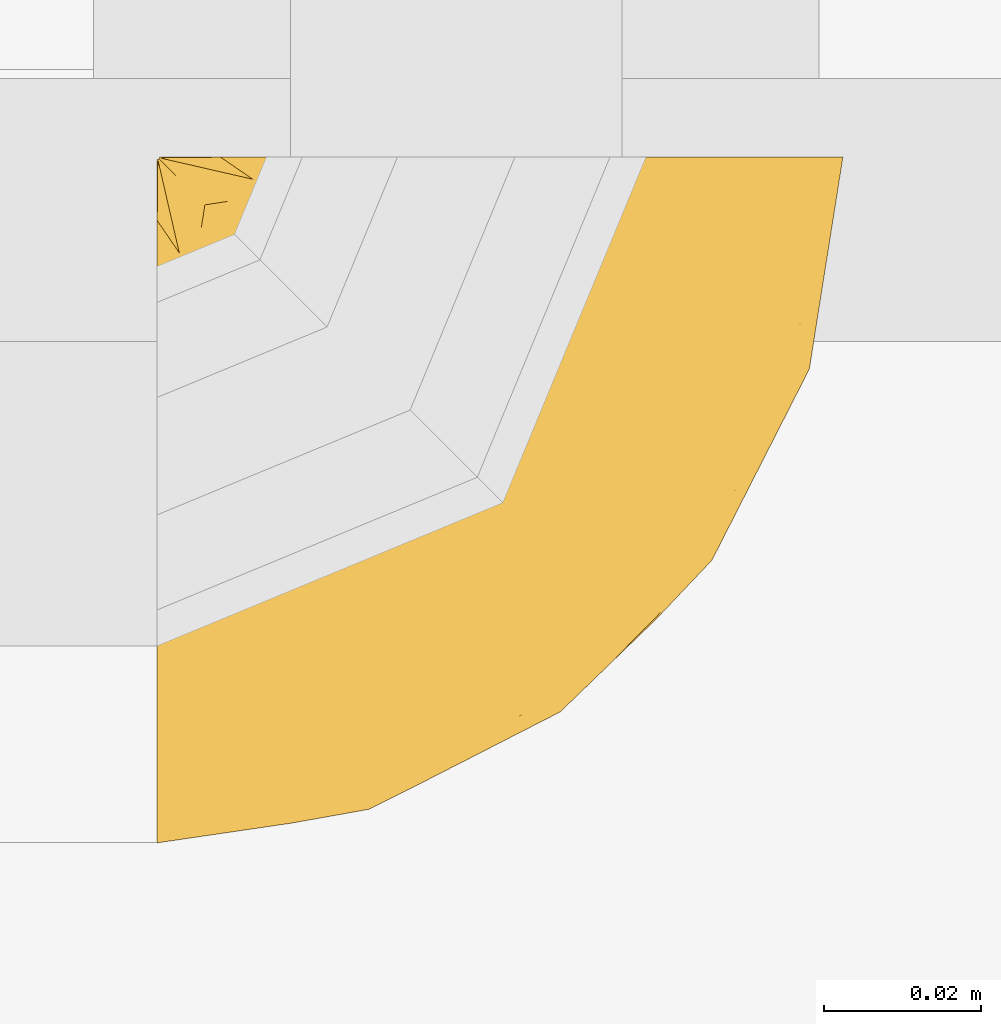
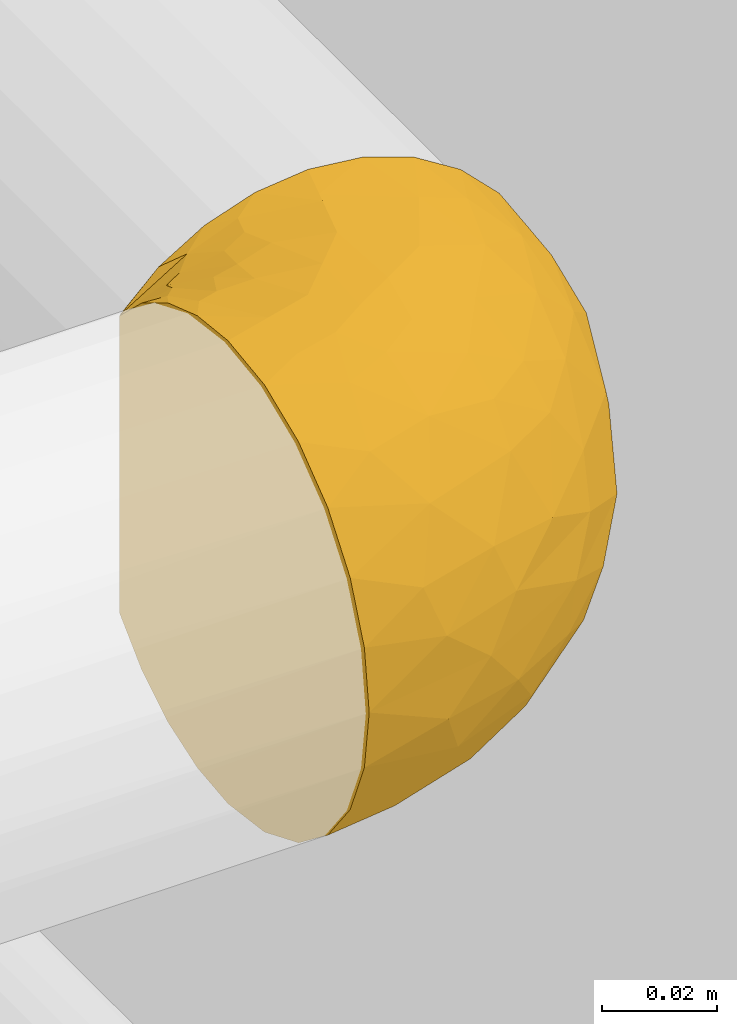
# One storey, part 43 of 94: 1 covering.
"""IFC2X3 building model written with IfcOpenShell, lengths in millimetres."""

from ifc_helpers import new_model, entity, si_unit, converted_unit, derived_unit, direction, frame, origin, place, context, subcontext, project, spatial, faceted_brep, material, element, save


model = new_model("IFC2X3")

# Units and contexts
model_context = context("Model", 3, precision=0.01, world=origin(), true_north=direction((6.123031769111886e-17, 1.0)))
body_context = subcontext(model_context, "Body", "Model", "MODEL_VIEW")
ifc_project = project(units=[si_unit("LENGTHUNIT", "METRE", prefix="MILLI"), si_unit("AREAUNIT", "SQUARE_METRE"), si_unit("VOLUMEUNIT", "CUBIC_METRE"), converted_unit("PLANEANGLEUNIT", "DEGREE", entity("IfcRatioMeasure", 0.017453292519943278), si_unit("PLANEANGLEUNIT", "RADIAN"), dimensions=[0, 0, 0, 0, 0, 0, 0]), si_unit("MASSUNIT", "GRAM", prefix="KILO"), derived_unit("MASSDENSITYUNIT", [(si_unit("MASSUNIT", "GRAM", prefix="KILO"), 1), (si_unit("LENGTHUNIT", "METRE"), -3)]), derived_unit("IONCONCENTRATIONUNIT", [(si_unit("MASSUNIT", "GRAM", prefix="KILO"), 1), (si_unit("LENGTHUNIT", "METRE"), -3)]), derived_unit("MOMENTOFINERTIAUNIT", [(si_unit("LENGTHUNIT", "METRE"), 4)]), si_unit("TIMEUNIT", "SECOND"), si_unit("FREQUENCYUNIT", "HERTZ"), si_unit("THERMODYNAMICTEMPERATUREUNIT", "DEGREE_CELSIUS"), derived_unit("THERMALTRANSMITTANCEUNIT", [(si_unit("MASSUNIT", "GRAM", prefix="KILO"), 1), (si_unit("THERMODYNAMICTEMPERATUREUNIT", "KELVIN"), -1), (si_unit("TIMEUNIT", "SECOND"), -3)]), derived_unit("THERMALCONDUCTANCEUNIT", [(si_unit("MASSUNIT", "GRAM", prefix="KILO"), 1), (si_unit("THERMODYNAMICTEMPERATUREUNIT", "KELVIN"), -1), (si_unit("TIMEUNIT", "SECOND"), -3), (si_unit("LENGTHUNIT", "METRE"), 1)]), derived_unit("VOLUMETRICFLOWRATEUNIT", [(si_unit("LENGTHUNIT", "METRE"), 3), (si_unit("TIMEUNIT", "SECOND"), -1)]), derived_unit("MASSFLOWRATEUNIT", [(si_unit("MASSUNIT", "GRAM", prefix="KILO"), 1), (si_unit("TIMEUNIT", "SECOND"), -1)]), derived_unit("ROTATIONALFREQUENCYUNIT", [(si_unit("TIMEUNIT", "SECOND"), -1)]), si_unit("ELECTRICCURRENTUNIT", "AMPERE"), si_unit("ELECTRICVOLTAGEUNIT", "VOLT"), si_unit("POWERUNIT", "WATT"), si_unit("FORCEUNIT", "NEWTON", prefix="KILO"), si_unit("ILLUMINANCEUNIT", "LUX"), si_unit("LUMINOUSFLUXUNIT", "LUMEN"), si_unit("LUMINOUSINTENSITYUNIT", "CANDELA"), derived_unit("USERDEFINED", [(si_unit("MASSUNIT", "GRAM", prefix="KILO"), -1), (si_unit("LENGTHUNIT", "METRE"), -2), (si_unit("TIMEUNIT", "SECOND"), 3), (si_unit("LUMINOUSFLUXUNIT", "LUMEN"), 1)]), derived_unit("USERDEFINED", [(si_unit("MASSUNIT", "GRAM", prefix="KILO"), 1), (si_unit("TIMEUNIT", "SECOND"), -3), (si_unit("LENGTHUNIT", "METRE"), 3), (si_unit("ELECTRICCURRENTUNIT", "AMPERE"), -2)]), derived_unit("SOUNDPOWERUNIT", [(si_unit("MASSUNIT", "GRAM", prefix="KILO"), 1), (si_unit("TIMEUNIT", "SECOND"), -3), (si_unit("LENGTHUNIT", "METRE"), 2)]), derived_unit("SOUNDPRESSUREUNIT", [(si_unit("MASSUNIT", "GRAM", prefix="KILO"), 1), (si_unit("LENGTHUNIT", "METRE"), -1), (si_unit("TIMEUNIT", "SECOND"), -2)]), derived_unit("LINEARVELOCITYUNIT", [(si_unit("LENGTHUNIT", "METRE"), 1), (si_unit("TIMEUNIT", "SECOND"), -1)]), si_unit("PRESSUREUNIT", "PASCAL"), derived_unit("USERDEFINED", [(si_unit("MASSUNIT", "GRAM", prefix="KILO"), 1), (si_unit("LENGTHUNIT", "METRE"), -2), (si_unit("TIMEUNIT", "SECOND"), -2)]), derived_unit("LINEARFORCEUNIT", [(si_unit("MASSUNIT", "GRAM", prefix="KILO"), 1), (si_unit("TIMEUNIT", "SECOND"), -2)]), derived_unit("PLANARFORCEUNIT", [(si_unit("MASSUNIT", "GRAM", prefix="KILO"), 1), (si_unit("LENGTHUNIT", "METRE"), -1), (si_unit("TIMEUNIT", "SECOND"), -2)]), derived_unit("SPECIFICHEATCAPACITYUNIT", [(si_unit("THERMODYNAMICTEMPERATUREUNIT", "KELVIN"), -1), (si_unit("LENGTHUNIT", "METRE"), 2), (si_unit("TIMEUNIT", "SECOND"), -2)]), derived_unit("HEATINGVALUEUNIT", [(si_unit("LENGTHUNIT", "METRE"), 2), (si_unit("TIMEUNIT", "SECOND"), -2)]), derived_unit("VAPORPERMEABILITYUNIT", [(si_unit("LENGTHUNIT", "METRE"), -1), (si_unit("TIMEUNIT", "SECOND"), 1)]), derived_unit("DYNAMICVISCOSITYUNIT", [(si_unit("MASSUNIT", "GRAM", prefix="KILO"), 1), (si_unit("TIMEUNIT", "SECOND"), -1), (si_unit("LENGTHUNIT", "METRE"), -1)]), derived_unit("THERMALEXPANSIONCOEFFICIENTUNIT", [(si_unit("THERMODYNAMICTEMPERATUREUNIT", "KELVIN"), -1)]), derived_unit("MODULUSOFELASTICITYUNIT", [(si_unit("MASSUNIT", "GRAM", prefix="KILO"), 1), (si_unit("LENGTHUNIT", "METRE"), -1), (si_unit("TIMEUNIT", "SECOND"), -2)]), derived_unit("ISOTHERMALMOISTURECAPACITYUNIT", [(si_unit("LENGTHUNIT", "METRE"), 3), (si_unit("MASSUNIT", "GRAM", prefix="KILO"), -1)]), derived_unit("MOISTUREDIFFUSIVITYUNIT", [(si_unit("TIMEUNIT", "SECOND"), -1), (si_unit("LENGTHUNIT", "METRE"), 2)])], contexts=[model_context])

# Site, building, storey
site_placement = place(None, origin())
site = spatial("IfcSite", under=ifc_project, at=site_placement, Name="Default", CompositionType="ELEMENT")
building_placement = place(site_placement, origin())
building = spatial("IfcBuilding", under=site, at=building_placement, CompositionType="ELEMENT")
storey_placement = place(building_placement, origin())
storey = spatial("IfcBuildingStorey", under=building, at=storey_placement, Name="Niveau 0", CompositionType="ELEMENT", Elevation=0.0)

# Covering
ifc_material = material(Name="Isolation - Laine minérale")
covering_placement = place(storey_placement, frame((-6007.007059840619, 9280.90873167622, 528.1475789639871)))
element("IfcCovering", 1, at=covering_placement, inside=storey, material=ifc_material, Name="Isolation des canalisations:Laine minérale", ObjectType="Isolation des canalisations:Laine minérale", PredefinedType="INSULATION", context=body_context, shape_type="Brep", body=[
    faceted_brep([(60.92885820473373, 88.74460681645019, 95.03059287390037), (70.24831573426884, 88.74470819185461, 89.17365976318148), (78.02978349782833, 88.74483931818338, 81.39075227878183), (83.88401864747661, 88.74499361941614, 72.07223380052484), (87.518126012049, 88.74516336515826, 61.684975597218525), (88.75006713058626, 88.74533996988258, 50.754437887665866), (87.51760059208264, 88.7455148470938, 39.81194824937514), (83.88104727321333, 88.74567899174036, 29.42082213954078), (78.024114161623, 88.74582418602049, 20.10136461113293), (70.24120667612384, 88.74594316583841, 12.31989684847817), (60.922688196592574, 88.74602998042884, 6.4656616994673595), (50.535429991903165, 88.74608028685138, 2.831554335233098), (39.60489228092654, 88.74609156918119, 1.5996132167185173), (28.945691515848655, 88.74606448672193, 2.7682960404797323), (18.797137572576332, 88.74600112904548, 6.219167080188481), (9.640197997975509, 88.74590453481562, 11.786441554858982), (1.9167842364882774, 88.74577946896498, 19.19501469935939), (1.9165442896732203, 88.74574019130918, 21.639283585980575), (1.916369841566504, 88.7457116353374, 23.41633604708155), (1.9161953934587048, 88.74568307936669, 25.19338850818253), (1.9160481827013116, 88.74565898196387, 26.692981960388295), (1.9159009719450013, 88.74563488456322, 28.192575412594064), (1.915606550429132, 88.74558668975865, 31.1917623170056), (1.9153121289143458, 88.74553849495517, 34.190949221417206), (1.9150177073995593, 88.74549030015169, 37.19013612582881), (1.9147232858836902, 88.74544210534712, 40.189323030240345), (1.914576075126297, 88.7454180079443, 41.68891648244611), (1.9144288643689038, 88.74539391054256, 43.188509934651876), (1.9141889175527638, 88.74535463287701, 45.632778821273), (1.913948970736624, 88.74531535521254, 48.07704770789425), (1.913709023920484, 88.7452760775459, 50.52131659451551), (1.9134690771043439, 88.74523679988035, 52.96558548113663), (1.9132291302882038, 88.74519752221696, 55.40985436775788), (1.9129891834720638, 88.7451582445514, 57.854123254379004), (1.912749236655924, 88.7451189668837, 60.29839214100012), (1.912509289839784, 88.74507968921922, 62.74266102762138), (1.912269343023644, 88.74504041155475, 65.18692991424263), (1.912029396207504, 88.74500113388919, 67.63119880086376), (1.9117894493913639, 88.74496185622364, 70.07546768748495), (1.911549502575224, 88.74492257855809, 72.51973657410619), (1.911309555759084, 88.74488330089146, 74.96400546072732), (1.911069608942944, 88.74484402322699, 77.4082743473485), (1.910829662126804, 88.74480474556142, 79.85254323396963), (1.9105897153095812, 88.74476546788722, 82.29681212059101), (9.649161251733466, 88.74465221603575, 89.71967484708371), (18.809829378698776, 88.74456990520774, 95.28598579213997), (28.956728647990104, 88.7445224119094, 98.73337939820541), (39.595242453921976, 88.74451195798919, 99.89961273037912), (50.537732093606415, 88.74454028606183, 98.66714619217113), (1.603165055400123, 88.43215979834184, 19.194978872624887), (1.6038992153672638, 80.6992068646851, 11.77753809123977), (1.604452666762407, 71.54257195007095, 6.212196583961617), (1.6047991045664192, 61.39746118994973, 2.763469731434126), (1.6049220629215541, 50.74606203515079, 1.5952722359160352), (1.6047675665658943, 38.02507905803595, 3.2698134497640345), (1.604294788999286, 26.170956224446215, 8.179728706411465), (1.6035359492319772, 15.991532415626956, 15.99041539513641), (1.6025427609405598, 8.180518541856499, 26.169588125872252), (1.6013829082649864, 3.270222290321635, 38.02355309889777), (1.600135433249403, 1.5952722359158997, 50.744482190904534), (1.5988853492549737, 3.269813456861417, 63.4654651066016), (1.5977178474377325, 8.179728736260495, 75.31958788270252), (1.596712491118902, 15.990415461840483, 85.49901164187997), (1.595937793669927, 26.169588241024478, 93.31002547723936), (1.5954465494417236, 38.02355327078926, 98.22032170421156), (1.5952722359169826, 50.74448242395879, 99.89527174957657), (1.5953786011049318, 61.39591911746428, 98.72741657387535), (1.5957092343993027, 71.54114070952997, 95.27901577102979), (1.5962484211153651, 80.69795448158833, 89.71396854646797), (1.5969705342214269, 88.43114579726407, 82.29677629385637), (1.597210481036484, 88.43118507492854, 79.85250740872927), (1.5973576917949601, 88.43120917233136, 78.35291395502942), (1.5975512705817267, 88.43124085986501, 76.38098278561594), (1.597744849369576, 88.43127254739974, 74.40905161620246), (1.5979384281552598, 88.43130423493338, 72.43712044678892), (1.5981320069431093, 88.43133592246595, 70.4651892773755), (1.598325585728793, 88.4313676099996, 68.49325810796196), (1.5985191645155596, 88.43139929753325, 66.52132693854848), (1.598712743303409, 88.43143098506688, 64.549395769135), (1.5989063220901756, 88.43146267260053, 62.57746459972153), (1.5990999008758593, 88.43149436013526, 60.60553343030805), (1.5992934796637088, 88.43152604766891, 58.63360226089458), (1.5994870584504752, 88.43155773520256, 56.6616710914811), (1.5996806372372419, 88.43158942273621, 54.68973992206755), (1.5998742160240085, 88.43162111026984, 52.71780875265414), (1.600067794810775, 88.4316527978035, 50.7458775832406), (1.6002613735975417, 88.43168448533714, 48.77394641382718), (1.6004549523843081, 88.4317161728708, 46.80201524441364), (1.6006485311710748, 88.43174786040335, 44.830084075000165), (1.6008421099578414, 88.431779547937, 42.858152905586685), (1.601035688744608, 88.43181123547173, 40.886221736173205), (1.6012292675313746, 88.43184292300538, 38.91429056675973), (1.601422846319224, 88.43187461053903, 36.94235939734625), (1.6016164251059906, 88.43190629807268, 34.97042822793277), (1.601910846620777, 88.43195449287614, 31.971241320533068), (1.602205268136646, 88.43200268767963, 28.972054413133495), (1.6024452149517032, 88.43204196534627, 26.52778552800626), (1.6026851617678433, 88.43208124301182, 24.083516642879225), (1.6029251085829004, 88.43212052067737, 21.63924775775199), (1.8141434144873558, 88.51630872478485, 53.75396743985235), (1.8231248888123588, 88.52490291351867, 51.8333940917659), (1.8230650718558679, 88.5256494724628, 61.47353043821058), (1.8163017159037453, 88.5191145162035, 63.56345344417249), (1.8046840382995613, 88.5074100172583, 48.00165365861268), (1.807673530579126, 88.5121022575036, 77.25062113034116), (1.8510937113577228, 88.56078521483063, 80.6997705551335), (1.828052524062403, 88.52918552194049, 42.43870070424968), (1.8245674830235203, 88.5239580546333, 22.861405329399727), (1.8224152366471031, 88.52197419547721, 24.70084492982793), (1.8267825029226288, 88.53038235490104, 71.37071884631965), (1.8163724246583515, 88.51995893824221, 73.40446696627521), (1.8412717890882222, 88.54418434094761, 44.410633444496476), (1.8169513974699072, 88.5177442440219, 37.92834702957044), (1.8132370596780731, 88.51442345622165, 39.81371294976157), (1.8309385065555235, 88.53167813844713, 35.956417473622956), (1.816294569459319, 88.51803299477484, 49.75993447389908), (1.819046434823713, 88.52305429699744, 79.10273403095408), (1.822339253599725, 88.52160519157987, 21.028203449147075), (1.8082069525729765, 88.51102758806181, 55.675727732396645), (1.8062156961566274, 88.51010081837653, 67.5073146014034), (1.8111483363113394, 88.5144173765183, 65.6151744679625), (1.8127105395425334, 88.51352202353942, 34.10520837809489), (1.810971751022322, 88.51365850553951, 57.55280258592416), (1.8079884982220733, 88.51225209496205, 75.39503935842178), (1.8187328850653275, 88.52300297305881, 82.29679953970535), (1.8473628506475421, 88.59212197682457, 82.29680346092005), (1.8759928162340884, 88.66124098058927, 82.29680738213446), (1.8249274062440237, 88.52401697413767, 19.19500211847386), (1.7558084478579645, 88.49538690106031, 19.194994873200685), (1.6866894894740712, 88.46675682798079, 19.194987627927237), (1.8371528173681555, 88.53818853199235, 32.21278757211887), (1.81308034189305, 88.51650379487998, 69.43621994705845), (1.823313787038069, 88.52462934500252, 46.24891671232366), (1.8197772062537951, 88.52218140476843, 59.49124176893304), (1.8416401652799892, 88.54311330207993, 29.41988276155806), (1.8201861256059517, 88.5200213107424, 27.44276542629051), (1.680494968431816, 88.46574282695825, 82.29678504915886), (1.7496139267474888, 88.49437290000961, 82.29679229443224), (1.882187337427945, 88.66225498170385, 19.195009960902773), (1.8535573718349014, 88.59313597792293, 19.195006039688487), (5.129123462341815, 66.84607546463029, 4.210888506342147), (4.413361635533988, 76.59346520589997, 8.744870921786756), (9.271845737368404, 67.93151833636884, 4.211312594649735), (7.216458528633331, 79.77868160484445, 9.956601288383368), (11.10492003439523, 53.291586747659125, 1.5962457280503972), (9.06129046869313, 52.74399615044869, 1.5960363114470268), (34.51387244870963, 69.746087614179, 1.5988081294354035), (23.954514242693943, 74.32118036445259, 2.9380706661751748), (22.40950951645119, 81.07963069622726, 4.215981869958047), (20.604918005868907, 55.83711146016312, 1.5972192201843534), (9.675620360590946, 80.67331754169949, 9.40657900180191), (10.560426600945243, 83.13829433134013, 9.964887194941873), (16.028956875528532, 66.39657719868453, 2.937309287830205), (23.495204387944, 85.22191852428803, 4.216155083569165), (13.746100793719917, 85.93833552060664, 8.752412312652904), (10.70065568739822, 72.79976918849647, 5.6918751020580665), (37.6069698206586, 81.2897201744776, 1.5992972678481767), (37.059382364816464, 79.24608959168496, 1.5992106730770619), (16.738208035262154, 73.612440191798, 4.4844727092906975), (27.559395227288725, 62.79159953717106, 1.5980136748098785), (16.46987806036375, 78.26971972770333, 5.767958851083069), (15.020963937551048, 42.717377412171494, 2.6129130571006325), (24.439351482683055, 46.33989382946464, 2.65970250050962), (36.501658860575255, 31.44150925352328, 11.134693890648), (31.21182048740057, 17.6733334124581, 20.827022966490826), (19.183096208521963, 23.139628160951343, 11.753236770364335), (23.3443854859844, 36.26144875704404, 5.338493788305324), (11.469328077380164, 32.800174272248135, 5.337272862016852), (52.82560695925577, 18.239480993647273, 50.749778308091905), (28.53096304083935, 5.860717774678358, 50.74719445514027), (36.47122098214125, 10.092725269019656, 40.342509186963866), (64.5644908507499, 76.48982590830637, 9.130837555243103), (54.10572172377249, 75.176045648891, 4.356591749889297), (60.78427989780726, 29.563222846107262, 32.652423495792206), (59.57734764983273, 34.95518693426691, 23.774346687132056), (75.05463495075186, 46.443469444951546, 35.6224594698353), (19.032435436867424, 4.214222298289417, 41.69709712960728), (43.10635442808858, 17.109218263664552, 30.513351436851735), (46.84434225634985, 25.59365986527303, 21.752467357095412), (15.058483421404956, 12.937304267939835, 20.825361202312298), (23.244518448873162, 8.193693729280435, 31.937823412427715), (53.24959087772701, 37.512027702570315, 15.989203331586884), (45.83424750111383, 41.46227606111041, 9.513896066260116), (56.644455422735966, 49.733998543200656, 11.411156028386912), (46.29828202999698, 61.57138162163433, 3.728093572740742), (60.305364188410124, 62.89281324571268, 9.13020050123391), (72.03642782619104, 70.54079247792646, 15.991579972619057), (84.48466352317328, 61.8145055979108, 50.753586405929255), (83.30554386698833, 67.6252470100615, 34.513642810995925), (64.73406344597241, 48.02362541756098, 18.54208835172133), (74.46101632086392, 56.65719371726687, 24.595441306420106), (79.74750974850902, 73.53405211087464, 24.59623122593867), (51.84275505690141, 19.26219049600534, 39.080284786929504), (65.00102912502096, 30.00823689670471, 42.35207529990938), (37.18659012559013, 56.9680249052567, 2.56684496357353), (72.10593817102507, 37.51984230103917, 50.75198082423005), (37.65519139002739, 46.87588236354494, 4.725926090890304), (32.16766141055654, 11.140091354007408, 69.55652518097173), (18.643625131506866, 4.0955275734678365, 59.58603113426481), (35.7701727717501, 9.502354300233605, 59.86811724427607), (47.845832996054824, 17.812172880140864, 66.14190745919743), (15.281202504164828, 6.466274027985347, 69.5547935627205), (65.816813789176, 54.54137524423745, 85.49968686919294), (64.55626042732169, 42.31967679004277, 78.99463449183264), (74.46456692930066, 56.6528136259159, 76.89467851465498), (53.252176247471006, 37.50157703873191, 85.49780292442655), (54.62931909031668, 30.584161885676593, 78.29154681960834), (54.1092873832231, 75.16982360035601, 97.14033832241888), (19.80259999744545, 44.78836685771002, 98.95472703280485), (20.595268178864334, 55.83553184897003, 99.8972187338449), (11.095270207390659, 53.29000713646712, 99.89624524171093), (83.30746351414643, 67.62566948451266, 66.98003077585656), (21.101599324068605, 14.262937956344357, 80.66722458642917), (60.31076265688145, 62.88526978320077, 92.36288546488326), (64.57101891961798, 76.48591575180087, 92.36352178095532), (13.46615987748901, 21.869268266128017, 89.73929023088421), (16.33619035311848, 33.88139274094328, 96.15512737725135), (41.93208610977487, 22.25156668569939, 79.62834007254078), (27.71603014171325, 26.047217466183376, 89.74075707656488), (59.123752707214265, 24.32919198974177, 59.51338146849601), (60.78326443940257, 29.56010436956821, 68.83999793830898), (10.513967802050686, 42.32066341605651, 99.01337470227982), (79.75151046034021, 73.53107529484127, 76.89546898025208), (75.05664165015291, 46.439505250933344, 65.863664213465), (72.04243574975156, 70.53635893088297, 85.50017671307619), (46.290874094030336, 61.55309680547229, 97.76844586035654), (34.504222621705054, 69.74450800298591, 99.89880764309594), (36.105287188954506, 54.85473270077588, 98.79276282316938), (27.549745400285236, 62.79001992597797, 99.89801318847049), (37.59731999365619, 81.28814056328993, 99.89929678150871), (37.04973253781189, 79.24450998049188, 99.89921018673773), (41.929263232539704, 37.17700846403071, 91.50760134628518), (26.197847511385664, 38.28674499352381, 96.42904573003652), (50.23480515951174, 48.93886347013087, 93.15466472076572), (27.44989073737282, 49.618565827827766, 99.08589131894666), (42.66913766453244, 29.423232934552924, 86.09476450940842), (34.95130682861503, 44.39922066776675, 96.68134105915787), (9.262709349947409, 67.93002400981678, 97.28128864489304), (12.075270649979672, 73.87557554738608, 95.72802395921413), (16.01993469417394, 66.39649487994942, 98.55632547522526), (5.119987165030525, 66.84458050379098, 97.28086468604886), (4.405115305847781, 76.59211591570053, 92.74705495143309), (7.208770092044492, 79.77502543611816, 91.53742820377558), (7.659499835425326, 82.68329198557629, 90.11386428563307), (16.723746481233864, 73.61633152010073, 97.00704729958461), (10.583567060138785, 83.12337781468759, 91.55105632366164), (22.422323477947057, 81.07662767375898, 97.28680189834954), (23.507426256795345, 85.22022027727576, 97.28697514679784), (13.756728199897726, 85.9340003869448, 92.7532337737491), (23.94295002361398, 74.32116628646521, 98.55698565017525), (17.557097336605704, 79.64768579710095, 95.80786213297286)], [[[0, 1, 2, 3, 4, 5, 6, 7, 8, 9, 10, 11, 12, 13, 14, 15, 16, 17, 18, 19, 20, 21, 22, 23, 24, 25, 26, 27, 28, 29, 30, 31, 32, 33, 34, 35, 36, 37, 38, 39, 40, 41, 42, 43, 44, 45, 46, 47, 48]], [[49, 50, 51, 52, 53, 54, 55, 56, 57, 58, 59, 60, 61, 62, 63, 64, 65, 66, 67, 68, 69, 70, 71, 72, 73, 74, 75, 76, 77, 78, 79, 80, 81, 82, 83, 84, 85, 86, 87, 88, 89, 90, 91, 92, 93, 94, 95, 96, 97, 98]], [[99, 100, 84]], [[101, 102, 35]], [[86, 103, 87]], [[72, 71, 104]], [[105, 70, 69]], [[27, 26, 106]], [[18, 107, 108]], [[109, 74, 110]], [[28, 27, 111]], [[25, 112, 113]], [[108, 97, 96]], [[114, 93, 92]], [[103, 86, 115]], [[97, 107, 98]], [[116, 71, 70]], [[107, 17, 117]], [[79, 102, 101]], [[99, 118, 32]], [[77, 119, 120]], [[121, 93, 114]], [[112, 91, 113]], [[89, 111, 106]], [[40, 39, 110]], [[107, 97, 108]], [[32, 118, 122]], [[92, 91, 112]], [[37, 120, 119]], [[85, 115, 86]], [[70, 105, 116]], [[72, 123, 73]], [[105, 124, 125, 126, 43]], [[117, 17, 16]], [[41, 116, 42]], [[117, 127, 128, 129, 49]], [[110, 123, 40]], [[42, 116, 105]], [[121, 23, 130]], [[24, 114, 112]], [[114, 24, 23]], [[104, 123, 72]], [[92, 112, 114]], [[104, 116, 41]], [[24, 112, 25]], [[110, 73, 123]], [[36, 120, 37]], [[40, 123, 41]], [[75, 74, 109]], [[131, 76, 75]], [[119, 131, 37]], [[109, 110, 39]], [[109, 39, 38]], [[74, 73, 110]], [[123, 104, 41]], [[116, 104, 71]], [[26, 25, 113]], [[113, 90, 106]], [[88, 87, 132]], [[113, 106, 26]], [[77, 76, 119]], [[132, 111, 88]], [[106, 111, 27]], [[132, 28, 111]], [[88, 111, 89]], [[89, 106, 90]], [[113, 91, 90]], [[131, 119, 76]], [[38, 37, 131]], [[120, 36, 102]], [[131, 109, 38]], [[109, 131, 75]], [[79, 78, 102]], [[78, 120, 102]], [[78, 77, 120]], [[122, 81, 133]], [[36, 35, 102]], [[33, 122, 133]], [[80, 79, 101]], [[34, 101, 35]], [[132, 29, 28]], [[81, 80, 133]], [[29, 103, 115]], [[30, 29, 115]], [[87, 103, 132]], [[100, 115, 85]], [[31, 30, 100]], [[115, 100, 30]], [[32, 31, 99]], [[118, 82, 122]], [[100, 85, 84]], [[99, 83, 118]], [[82, 118, 83]], [[33, 32, 122]], [[83, 99, 84]], [[100, 99, 31]], [[34, 33, 133]], [[122, 82, 81]], [[133, 101, 34]], [[101, 133, 80]], [[134, 95, 94]], [[23, 121, 114]], [[132, 103, 29]], [[121, 94, 93]], [[94, 121, 130]], [[98, 107, 117]], [[108, 20, 19, 18]], [[21, 135, 134]], [[20, 135, 21]], [[134, 135, 95]], [[108, 96, 135]], [[108, 135, 20]], [[135, 96, 95]], [[134, 22, 21]], [[130, 22, 134]], [[42, 105, 43]], [[105, 69, 136, 137, 124]], [[98, 117, 49]], [[117, 16, 138, 139, 127]], [[18, 17, 107]], [[94, 130, 134]], [[22, 130, 23]], [[140, 141, 142]], [[143, 129, 128, 127]], [[52, 144, 145, 53]], [[146, 147, 148]], [[142, 149, 144]], [[150, 127, 151]], [[51, 140, 52]], [[142, 152, 149]], [[52, 140, 144]], [[129, 143, 141]], [[14, 13, 153]], [[148, 151, 154]], [[155, 141, 143]], [[151, 138, 154]], [[14, 153, 154]], [[16, 15, 138]], [[13, 12, 156, 157]], [[152, 155, 158]], [[159, 158, 147]], [[157, 148, 153]], [[14, 154, 15]], [[50, 49, 129]], [[50, 129, 141]], [[141, 51, 50]], [[160, 148, 147]], [[146, 148, 157]], [[138, 15, 154]], [[150, 158, 155]], [[151, 127, 139, 138]], [[141, 140, 51]], [[144, 140, 142]], [[157, 153, 13]], [[154, 153, 148]], [[149, 152, 159]], [[160, 147, 158]], [[147, 146, 159]], [[155, 152, 142]], [[159, 152, 158]], [[127, 150, 143]], [[160, 150, 151]], [[150, 160, 158]], [[148, 160, 151]], [[141, 155, 142]], [[155, 143, 150]], [[156, 12, 11]], [[161, 149, 162]], [[163, 164, 165]], [[166, 167, 161]], [[168, 169, 170]], [[55, 165, 56]], [[171, 172, 10]], [[173, 174, 175]], [[58, 176, 59]], [[173, 177, 178]], [[179, 57, 56]], [[55, 167, 165]], [[170, 180, 177]], [[57, 179, 180]], [[167, 55, 54]], [[181, 182, 183]], [[184, 146, 172]], [[172, 185, 184]], [[186, 185, 171]], [[186, 9, 8]], [[172, 146, 157, 156]], [[172, 11, 10]], [[173, 178, 174]], [[6, 187, 188]], [[189, 186, 190]], [[191, 186, 8]], [[175, 190, 188]], [[168, 192, 193]], [[189, 190, 174]], [[57, 180, 58]], [[8, 7, 191]], [[188, 7, 6]], [[6, 5, 187]], [[190, 191, 188]], [[159, 194, 162]], [[175, 187, 195]], [[177, 180, 164]], [[10, 9, 171]], [[176, 180, 170]], [[156, 11, 172]], [[163, 165, 166]], [[179, 165, 164]], [[54, 53, 145]], [[185, 189, 183]], [[184, 196, 194]], [[188, 191, 7]], [[186, 191, 190]], [[186, 171, 9]], [[172, 171, 185]], [[187, 175, 188]], [[193, 175, 195]], [[196, 163, 166]], [[163, 181, 178]], [[162, 166, 161]], [[184, 185, 183]], [[178, 177, 164]], [[177, 192, 170]], [[177, 173, 192]], [[176, 170, 169]], [[59, 176, 169]], [[58, 180, 176]], [[193, 192, 173]], [[168, 170, 192]], [[175, 193, 173]], [[168, 193, 195]], [[163, 178, 164]], [[184, 194, 146]], [[178, 181, 174]], [[189, 174, 181]], [[175, 174, 190]], [[183, 189, 181]], [[186, 189, 185]], [[182, 181, 163]], [[183, 182, 184]], [[163, 196, 182]], [[184, 182, 196]], [[165, 179, 56]], [[180, 179, 164]], [[161, 54, 145]], [[165, 167, 166]], [[54, 161, 167]], [[161, 145, 144, 149]], [[159, 162, 149]], [[196, 166, 162]], [[162, 194, 196]], [[146, 194, 159]], [[197, 198, 199]], [[59, 169, 198]], [[197, 199, 200]], [[198, 197, 201]], [[202, 203, 204]], [[61, 60, 201]], [[205, 206, 203]], [[0, 48, 207]], [[208, 209, 210]], [[187, 4, 211]], [[201, 212, 61]], [[213, 214, 207]], [[62, 215, 63]], [[63, 215, 216]], [[3, 211, 4]], [[217, 218, 212]], [[219, 220, 200]], [[216, 208, 221]], [[3, 2, 222]], [[63, 216, 64]], [[62, 61, 212]], [[211, 3, 222]], [[5, 4, 187]], [[217, 197, 200]], [[203, 223, 204]], [[2, 1, 224]], [[225, 213, 207]], [[204, 222, 224]], [[1, 0, 214]], [[204, 224, 202]], [[207, 226, 225]], [[227, 226, 228]], [[223, 211, 204]], [[214, 224, 1]], [[202, 224, 213]], [[48, 47, 229]], [[207, 229, 230, 226]], [[211, 223, 187]], [[218, 231, 232]], [[48, 229, 207]], [[205, 233, 231]], [[233, 213, 225]], [[217, 212, 197]], [[215, 212, 218]], [[228, 234, 227]], [[233, 205, 202]], [[208, 234, 209]], [[64, 221, 65]], [[235, 205, 231]], [[207, 214, 0]], [[224, 214, 213]], [[224, 222, 2]], [[211, 222, 204]], [[219, 223, 220]], [[187, 223, 195]], [[227, 233, 225]], [[234, 228, 209]], [[231, 233, 236]], [[221, 208, 210]], [[232, 208, 216]], [[65, 221, 210]], [[216, 221, 64]], [[233, 202, 213]], [[203, 202, 205]], [[205, 235, 206]], [[223, 203, 220]], [[200, 206, 217]], [[220, 203, 206]], [[232, 231, 236]], [[235, 218, 217]], [[212, 215, 62]], [[216, 215, 218]], [[218, 232, 216]], [[234, 232, 236]], [[232, 234, 208]], [[234, 236, 227]], [[233, 227, 236]], [[226, 227, 225]], [[198, 201, 60]], [[212, 201, 197]], [[59, 198, 60]], [[198, 169, 199]], [[169, 168, 199]], [[219, 200, 199]], [[219, 199, 168]], [[200, 220, 206]], [[168, 195, 219]], [[223, 219, 195]], [[218, 235, 231]], [[206, 235, 217]], [[66, 65, 210]], [[209, 237, 210]], [[238, 237, 239]], [[67, 240, 241]], [[242, 136, 241]], [[243, 137, 242]], [[243, 244, 245]], [[66, 240, 67]], [[136, 69, 68]], [[136, 68, 241]], [[246, 226, 230]], [[67, 241, 68]], [[210, 237, 240]], [[45, 247, 46]], [[209, 239, 237]], [[246, 247, 248]], [[46, 247, 230]], [[249, 250, 244]], [[239, 228, 244]], [[226, 246, 249]], [[250, 248, 245]], [[44, 43, 126]], [[237, 242, 241]], [[248, 45, 44]], [[44, 126, 248]], [[46, 230, 229, 47]], [[245, 126, 125]], [[126, 245, 248]], [[243, 124, 137]], [[210, 240, 66]], [[241, 240, 237]], [[248, 247, 45]], [[230, 247, 246]], [[226, 249, 228]], [[238, 239, 244]], [[239, 209, 228]], [[250, 249, 246]], [[228, 249, 244]], [[243, 242, 238]], [[136, 242, 137]], [[124, 243, 125]], [[125, 243, 245]], [[243, 238, 244]], [[237, 238, 242]], [[248, 250, 246]], [[244, 250, 245]]]),
])

save(model, "model.ifc")
